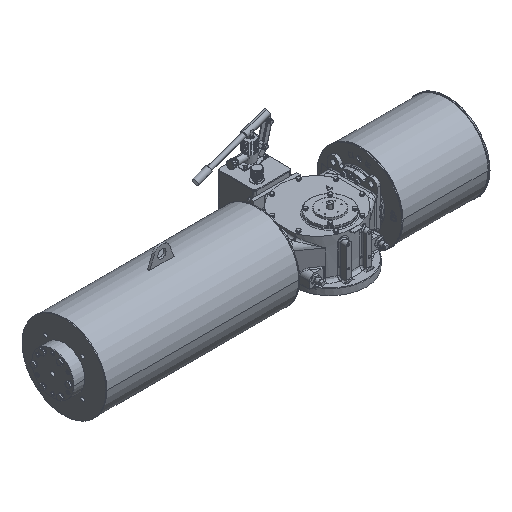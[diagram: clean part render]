
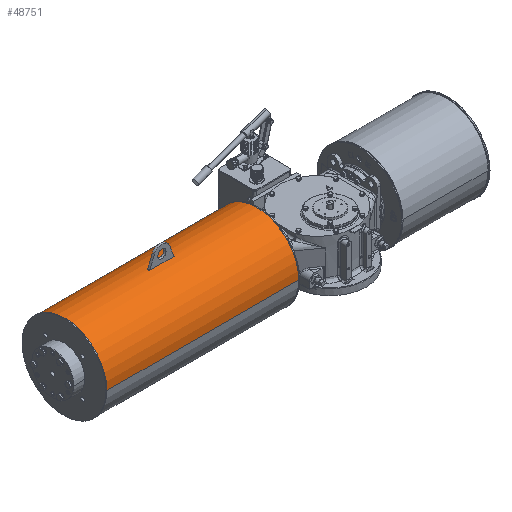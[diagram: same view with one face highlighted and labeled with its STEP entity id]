
A CAD part, isometric view. The second image highlights one B-rep face of the part: STEP entity #48751.
In plain terms, the highlighted cylindrical face has radius 203.2 mm (diameter 406.4 mm), a partial arc.
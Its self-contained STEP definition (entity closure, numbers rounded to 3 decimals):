
#14 = VECTOR ( 'NONE', #60493, 1000. ) ;
#222 = EDGE_CURVE ( 'NONE', #34897, #46479, #59381, .T. ) ;
#560 = CARTESIAN_POINT ( 'NONE',  ( -1179.7, 311.2, 82.5 ) ) ;
#679 = DIRECTION ( 'NONE',  ( -1., 0., 0. ) ) ;
#827 = EDGE_CURVE ( 'NONE', #20014, #83667, #84506, .T. ) ;
#1523 = CARTESIAN_POINT ( 'NONE',  ( -774., 103., 285.638 ) ) ;
#1757 = ORIENTED_EDGE ( 'NONE', *, *, #71914, .T. ) ;
#3032 = EDGE_CURVE ( 'NONE', #46479, #62683, #34710, .T. ) ;
#6017 = EDGE_CURVE ( 'NONE', #89703, #34897, #31542, .T. ) ;
#8444 = ORIENTED_EDGE ( 'NONE', *, *, #222, .T. ) ;
#8529 = ORIENTED_EDGE ( 'NONE', *, *, #6017, .T. ) ;
#8968 = DIRECTION ( 'NONE',  ( 1., 0., 0. ) ) ;
#9950 = DIRECTION ( 'NONE',  ( 1., 0., 0. ) ) ;
#10822 = AXIS2_PLACEMENT_3D ( 'NONE', #75732, #679, #31538 ) ;
#12188 = CARTESIAN_POINT ( 'NONE',  ( -248.3, 108., 82.5 ) ) ;
#12411 = AXIS2_PLACEMENT_3D ( 'NONE', #76189, #8968, #38906 ) ;
#15566 = ORIENTED_EDGE ( 'NONE', *, *, #85917, .T. ) ;
#16429 = DIRECTION ( 'NONE',  ( 0., 0., 1. ) ) ;
#17292 = CARTESIAN_POINT ( 'NONE',  ( -1176.5, 311.2, 82.5 ) ) ;
#18125 = CARTESIAN_POINT ( 'NONE',  ( -1176.5, 108., 82.5 ) ) ;
#19071 = FACE_OUTER_BOUND ( 'NONE', #69819, .T. ) ;
#20014 = VERTEX_POINT ( 'NONE', #560 ) ;
#20802 = DIRECTION ( 'NONE',  ( 1., 0., 0. ) ) ;
#22745 = CARTESIAN_POINT ( 'NONE',  ( -774., 113., 285.638 ) ) ;
#23682 = CARTESIAN_POINT ( 'NONE',  ( -1176.5, 113., 285.638 ) ) ;
#25021 = CARTESIAN_POINT ( 'NONE',  ( -248.3, -95.2, 82.5 ) ) ;
#26400 = DIRECTION ( 'NONE',  ( 1., 0., 0. ) ) ;
#26822 = CARTESIAN_POINT ( 'NONE',  ( -654., 108., 285.7 ) ) ;
#27453 = EDGE_CURVE ( 'NONE', #74672, #93895, #53133, .T. ) ;
#28700 = DIRECTION ( 'NONE',  ( 1., 0., 0. ) ) ;
#29618 = ORIENTED_EDGE ( 'NONE', *, *, #73065, .F. ) ;
#30797 = CIRCLE ( 'NONE', #85645, 203.2 ) ;
#31538 = DIRECTION ( 'NONE',  ( 0., 1., 0. ) ) ;
#31542 = LINE ( 'NONE', #23682, #85750 ) ;
#33313 = DIRECTION ( 'NONE',  ( 1., 0., 0. ) ) ;
#34710 = CIRCLE ( 'NONE', #64440, 203.2 ) ;
#34761 = ORIENTED_EDGE ( 'NONE', *, *, #55255, .T. ) ;
#34897 = VERTEX_POINT ( 'NONE', #79769 ) ;
#35002 = VERTEX_POINT ( 'NONE', #68442 ) ;
#37197 = CARTESIAN_POINT ( 'NONE',  ( -248.3, 108., 285.7 ) ) ;
#37527 = DIRECTION ( 'NONE',  ( -1., 0., 0. ) ) ;
#38516 = CARTESIAN_POINT ( 'NONE',  ( -774., 108., 82.5 ) ) ;
#38834 = CARTESIAN_POINT ( 'NONE',  ( -248.3, 311.2, 82.5 ) ) ;
#38906 = DIRECTION ( 'NONE',  ( 0., 0., -1. ) ) ;
#40560 = VECTOR ( 'NONE', #20802, 1000. ) ;
#42421 = CARTESIAN_POINT ( 'NONE',  ( -1176.5, -95.2, 82.5 ) ) ;
#42940 = CARTESIAN_POINT ( 'NONE',  ( -1176.5, 103., 285.638 ) ) ;
#43421 = DIRECTION ( 'NONE',  ( 1., 0., 0. ) ) ;
#43770 = VERTEX_POINT ( 'NONE', #1523 ) ;
#43889 = LINE ( 'NONE', #42940, #79916 ) ;
#45305 = ORIENTED_EDGE ( 'NONE', *, *, #827, .F. ) ;
#46479 = VERTEX_POINT ( 'NONE', #26822 ) ;
#48751 = ADVANCED_FACE ( 'NONE', ( #57332, #19071 ), #87301, .T. ) ;
#49237 = DIRECTION ( 'NONE',  ( 0., 0., 1. ) ) ;
#49714 = DIRECTION ( 'NONE',  ( -1., 0., 0. ) ) ;
#49951 = DIRECTION ( 'NONE',  ( -1., 0., 0. ) ) ;
#51294 = ORIENTED_EDGE ( 'NONE', *, *, #66810, .T. ) ;
#52249 = CARTESIAN_POINT ( 'NONE',  ( -1179.7, 108., 82.5 ) ) ;
#52973 = CIRCLE ( 'NONE', #85972, 203.2 ) ;
#53133 = CIRCLE ( 'NONE', #10822, 203.2 ) ;
#54440 = ORIENTED_EDGE ( 'NONE', *, *, #27453, .T. ) ;
#55255 = EDGE_CURVE ( 'NONE', #93895, #83667, #30797, .T. ) ;
#56337 = ORIENTED_EDGE ( 'NONE', *, *, #3032, .T. ) ;
#56568 = CARTESIAN_POINT ( 'NONE',  ( -774., 108., 82.5 ) ) ;
#57332 = FACE_BOUND ( 'NONE', #68650, .T. ) ;
#57531 = CIRCLE ( 'NONE', #90420, 203.2 ) ;
#58280 = DIRECTION ( 'NONE',  ( 0., 0., -1. ) ) ;
#59381 = CIRCLE ( 'NONE', #12411, 203.2 ) ;
#60493 = DIRECTION ( 'NONE',  ( 1., 0., 0. ) ) ;
#62683 = VERTEX_POINT ( 'NONE', #69827 ) ;
#63219 = DIRECTION ( 'NONE',  ( 0., 1., 0. ) ) ;
#64152 = DIRECTION ( 'NONE',  ( 0., 1., 0. ) ) ;
#64440 = AXIS2_PLACEMENT_3D ( 'NONE', #65165, #26400, #58280 ) ;
#65165 = CARTESIAN_POINT ( 'NONE',  ( -654., 108., 82.5 ) ) ;
#66810 = EDGE_CURVE ( 'NONE', #20014, #92297, #57531, .T. ) ;
#68442 = CARTESIAN_POINT ( 'NONE',  ( -774., 108., 285.7 ) ) ;
#68650 = EDGE_LOOP ( 'NONE', ( #8529, #8444, #56337, #29618, #72568, #15566 ) ) ;
#69727 = CARTESIAN_POINT ( 'NONE',  ( -1179.7, -95.2, 82.5 ) ) ;
#69819 = EDGE_LOOP ( 'NONE', ( #51294, #1757, #54440, #34761, #45305 ) ) ;
#69827 = CARTESIAN_POINT ( 'NONE',  ( -654., 103., 285.638 ) ) ;
#71345 = EDGE_CURVE ( 'NONE', #43770, #35002, #52973, .T. ) ;
#71914 = EDGE_CURVE ( 'NONE', #92297, #74672, #79690, .T. ) ;
#72568 = ORIENTED_EDGE ( 'NONE', *, *, #71345, .T. ) ;
#73065 = EDGE_CURVE ( 'NONE', #43770, #62683, #43889, .T. ) ;
#73592 = CIRCLE ( 'NONE', #81431, 203.2 ) ;
#74672 = VERTEX_POINT ( 'NONE', #25021 ) ;
#75732 = CARTESIAN_POINT ( 'NONE',  ( -248.3, 108., 82.5 ) ) ;
#76189 = CARTESIAN_POINT ( 'NONE',  ( -654., 108., 82.5 ) ) ;
#79690 = LINE ( 'NONE', #42421, #40560 ) ;
#79769 = CARTESIAN_POINT ( 'NONE',  ( -654., 113., 285.638 ) ) ;
#79916 = VECTOR ( 'NONE', #43421, 1000. ) ;
#80718 = DIRECTION ( 'NONE',  ( 0., 1., 0. ) ) ;
#81431 = AXIS2_PLACEMENT_3D ( 'NONE', #38516, #37527, #16429 ) ;
#83667 = VERTEX_POINT ( 'NONE', #38834 ) ;
#84506 = LINE ( 'NONE', #17292, #14 ) ;
#85645 = AXIS2_PLACEMENT_3D ( 'NONE', #12188, #49951, #64152 ) ;
#85750 = VECTOR ( 'NONE', #9950, 1000. ) ;
#85917 = EDGE_CURVE ( 'NONE', #35002, #89703, #73592, .T. ) ;
#85972 = AXIS2_PLACEMENT_3D ( 'NONE', #56568, #49714, #49237 ) ;
#87301 = CYLINDRICAL_SURFACE ( 'NONE', #92944, 203.2 ) ;
#89703 = VERTEX_POINT ( 'NONE', #22745 ) ;
#90420 = AXIS2_PLACEMENT_3D ( 'NONE', #52249, #28700, #80718 ) ;
#92297 = VERTEX_POINT ( 'NONE', #69727 ) ;
#92944 = AXIS2_PLACEMENT_3D ( 'NONE', #18125, #33313, #63219 ) ;
#93895 = VERTEX_POINT ( 'NONE', #37197 ) ;
